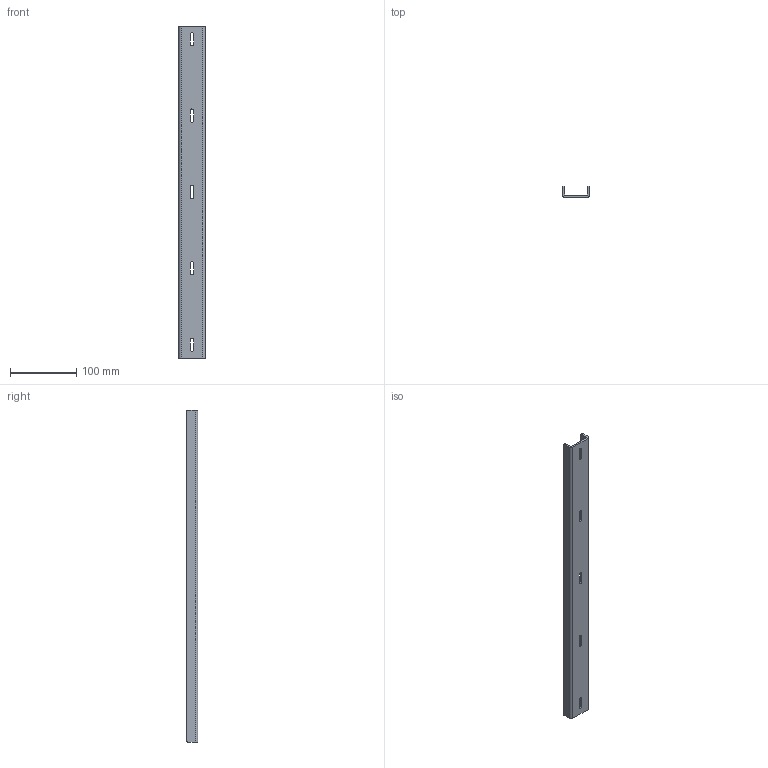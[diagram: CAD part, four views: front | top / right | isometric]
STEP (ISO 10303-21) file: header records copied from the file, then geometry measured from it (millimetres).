
FILE_DESCRIPTION (( 'STEP AP214' ), '1' );
FILE_NAME ('E441-500.STEP', '2022-05-20T09:26:07', ( '' ), ( '' ), 'SwSTEP 2.0', 'SolidWorks 2019', '' );
FILE_SCHEMA (( 'AUTOMOTIVE_DESIGN' ));
Length unit declared in the file: millimetre
Products named in the file (1): E441-500
Bounding box: 40 x 17 x 500 mm (x, y, z)
Volume: 97986.5 mm3; surface area: 69487.6 mm2
Topology: 1 solids, 1 shells, 90 faces, 252 edges, 168 vertices
Faces by surface type: plane 62, cylinder 24, bspline 4
Entity records: 3004 total; most frequent: CARTESIAN_POINT 611, ORIENTED_EDGE 504, DIRECTION 466, EDGE_CURVE 252, LINE 196, VECTOR 196, VERTEX_POINT 168, AXIS2_PLACEMENT_3D 135
